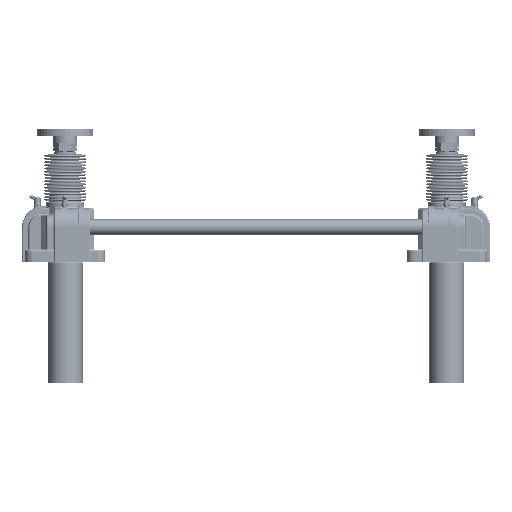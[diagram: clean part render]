
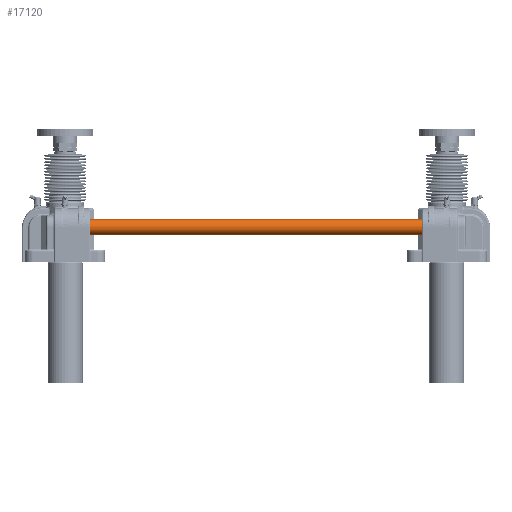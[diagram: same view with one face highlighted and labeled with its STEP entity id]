
A CAD part, front view. The second image highlights one B-rep face of the part: STEP entity #17120.
In plain terms, the highlighted cylindrical face has radius 12.5 mm (diameter 25 mm), a full revolution.
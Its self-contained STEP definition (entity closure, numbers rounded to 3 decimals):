
#17120=ADVANCED_FACE('',(#40643,#40644),#40645,.T.);
#40643=FACE_OUTER_BOUND('',#78253,.T.);
#40644=FACE_OUTER_BOUND('',#78254,.T.);
#40645=CYLINDRICAL_SURFACE('',#78255,12.5);
#78253=EDGE_LOOP('',(#171628));
#78254=EDGE_LOOP('',(#171629));
#78255=AXIS2_PLACEMENT_3D('',#171630,#171631,#171632);
#171628=ORIENTED_EDGE('',*,*,#201709,.T.);
#171629=ORIENTED_EDGE('',*,*,#201706,.T.);
#171630=CARTESIAN_POINT('',(0.0,0.0,642.0));
#171631=DIRECTION('',(0.0,0.0,-1.0));
#171632=DIRECTION('',(-1.0,0.0,0.0));
#201706=EDGE_CURVE('',#251622,#251622,#251623,.F.);
#201709=EDGE_CURVE('',#251628,#251628,#251629,.T.);
#251622=VERTEX_POINT('',#345052);
#251623=CIRCLE('',#345053,12.5);
#251628=VERTEX_POINT('',#345058);
#251629=CIRCLE('',#345059,12.5);
#345052=CARTESIAN_POINT('',(12.5,0.0,641.0));
#345053=AXIS2_PLACEMENT_3D('',#379274,#379275,#379276);
#345058=CARTESIAN_POINT('',(12.5,0.0,1.0));
#345059=AXIS2_PLACEMENT_3D('',#379283,#379284,#379285);
#379274=CARTESIAN_POINT('',(0.0,0.0,641.0));
#379275=DIRECTION('',(0.0,0.0,1.0));
#379276=DIRECTION('',(1.0,0.0,0.0));
#379283=CARTESIAN_POINT('',(0.0,0.0,1.0));
#379284=DIRECTION('',(0.0,0.0,1.0));
#379285=DIRECTION('',(1.0,0.0,0.0));
